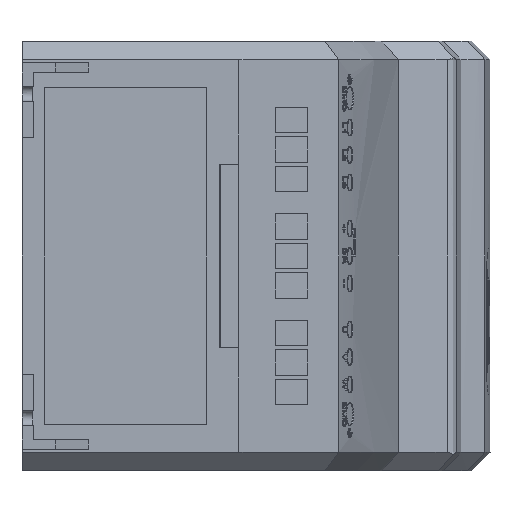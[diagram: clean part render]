
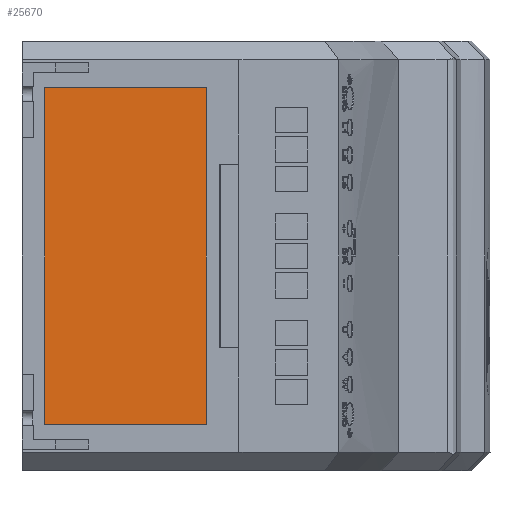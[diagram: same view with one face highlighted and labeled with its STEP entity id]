
A CAD part, front view. The second image highlights one B-rep face of the part: STEP entity #25670.
In plain terms, the highlighted planar face has unit normal (0.035, -0.999, 0).
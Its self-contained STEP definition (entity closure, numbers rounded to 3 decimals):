
#635 = CARTESIAN_POINT ( 'NONE',  ( 2.048, -174.216, 25.5 ) ) ;
#984 = DIRECTION ( 'NONE',  ( -0.999, -0.035, 0. ) ) ;
#1644 = CARTESIAN_POINT ( 'NONE',  ( 2.048, -174.216, 208.5 ) ) ;
#3006 = DIRECTION ( 'NONE',  ( 0., 0., -1. ) ) ;
#3765 = CARTESIAN_POINT ( 'NONE',  ( 2.048, -174.216, 208.5 ) ) ;
#4008 = DIRECTION ( 'NONE',  ( -0.035, 0.999, 0. ) ) ;
#6230 = VECTOR ( 'NONE', #19688, 1000. ) ;
#8087 = CARTESIAN_POINT ( 'NONE',  ( 2.048, -174.216, 208.5 ) ) ;
#10117 = CARTESIAN_POINT ( 'NONE',  ( 2.048, -174.216, 25.5 ) ) ;
#12465 = DIRECTION ( 'NONE',  ( 0., 0., 1. ) ) ;
#12866 = LINE ( 'NONE', #1644, #28957 ) ;
#13176 = LINE ( 'NONE', #21618, #30135 ) ;
#13250 = VERTEX_POINT ( 'NONE', #10117 ) ;
#14582 = CARTESIAN_POINT ( 'NONE',  ( -85.899, -177.287, 25.5 ) ) ;
#14861 = ORIENTED_EDGE ( 'NONE', *, *, #16207, .T. ) ;
#15715 = VERTEX_POINT ( 'NONE', #29918 ) ;
#16207 = EDGE_CURVE ( 'NONE', #15715, #21778, #13176, .T. ) ;
#17919 = VERTEX_POINT ( 'NONE', #3765 ) ;
#18889 = LINE ( 'NONE', #8087, #30198 ) ;
#19688 = DIRECTION ( 'NONE',  ( 0.999, 0.035, 0. ) ) ;
#21426 = EDGE_CURVE ( 'NONE', #13250, #17919, #12866, .T. ) ;
#21618 = CARTESIAN_POINT ( 'NONE',  ( -85.899, -177.287, 208.5 ) ) ;
#21778 = VERTEX_POINT ( 'NONE', #14582 ) ;
#22510 = EDGE_CURVE ( 'NONE', #17919, #15715, #18889, .T. ) ;
#23703 = ORIENTED_EDGE ( 'NONE', *, *, #33239, .T. ) ;
#24267 = EDGE_LOOP ( 'NONE', ( #25558, #24780, #14861, #23703 ) ) ;
#24458 = DIRECTION ( 'NONE',  ( -0.999, -0.035, 0. ) ) ;
#24780 = ORIENTED_EDGE ( 'NONE', *, *, #22510, .T. ) ;
#25558 = ORIENTED_EDGE ( 'NONE', *, *, #21426, .T. ) ;
#25670 = ADVANCED_FACE ( 'NONE', ( #26130 ), #31841, .F. ) ;
#25884 = CARTESIAN_POINT ( 'NONE',  ( 6.079, -174.075, 0. ) ) ;
#26130 = FACE_OUTER_BOUND ( 'NONE', #24267, .T. ) ;
#28957 = VECTOR ( 'NONE', #12465, 1000. ) ;
#29918 = CARTESIAN_POINT ( 'NONE',  ( -85.899, -177.287, 208.5 ) ) ;
#30135 = VECTOR ( 'NONE', #3006, 1000. ) ;
#30161 = LINE ( 'NONE', #635, #6230 ) ;
#30198 = VECTOR ( 'NONE', #24458, 1000. ) ;
#31841 = PLANE ( 'NONE',  #35053 ) ;
#33239 = EDGE_CURVE ( 'NONE', #21778, #13250, #30161, .T. ) ;
#35053 = AXIS2_PLACEMENT_3D ( 'NONE', #25884, #4008, #984 ) ;
